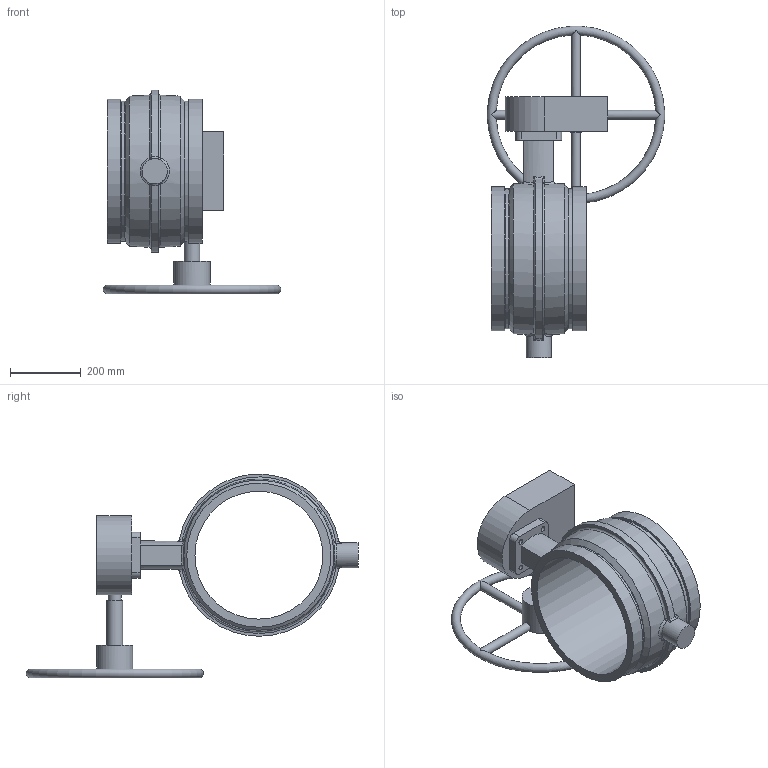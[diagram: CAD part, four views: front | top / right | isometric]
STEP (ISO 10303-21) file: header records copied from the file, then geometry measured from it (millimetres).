
FILE_DESCRIPTION(/* description */ ('VIC AGS VALVE BUTTERFLY VIC-300 MS GO SERIES W761 (AGS)'),/* implementation_level */ '2;1');
FILE_NAME(/* name */ 'C:\Files for Export\W761\STEP\Victaulic_IPS-AGS_Vlv Btfl Vic-300 MS GO_Series W761 (AGS)\Victaulic_IPS-AGS_Vlv Btfl Vic-300 MS GO_Series W761 (AGS)_16 (400).stp',/* time_stamp */ '2024-08-27T14:19:29+02:00',/* author */ ('jheald'),/* organization */ ('Victaulic'),/* preprocessor_version */ 'ST-DEVELOPER v18.1',/* originating_system */ 'Autodesk Inventor 2020',/* authorisation */ '');
FILE_SCHEMA (('AUTOMOTIVE_DESIGN { 1 0 10303 214 3 1 1 }'));
Length unit declared in the file: inch
Products named in the file (1): W761-16.0
Bounding box: 500.13 x 935.86 x 574.53 mm (x, y, z)
Volume: 18740551.2 mm3; surface area: 1262781.8 mm2
Topology: 1 solids, 1 shells, 95 faces, 268 edges, 178 vertices
Faces by surface type: cylinder 34, plane 28, torus 11, bspline 10, sphere 8, cone 4
Full cylindrical faces by diameter (mm): 14.681 x4, 24.994 x4, 35.56 x1, 44.45 x1, 71.12 x1, 101.6 x1, 360.426 x1, 393.7 x2, 406.4 x2
Entity records: 4106 total; most frequent: CARTESIAN_POINT 1548, ORIENTED_EDGE 536, DIRECTION 479, EDGE_CURVE 268, AXIS2_PLACEMENT_3D 205, VERTEX_POINT 178, CIRCLE 119, EDGE_LOOP 108
